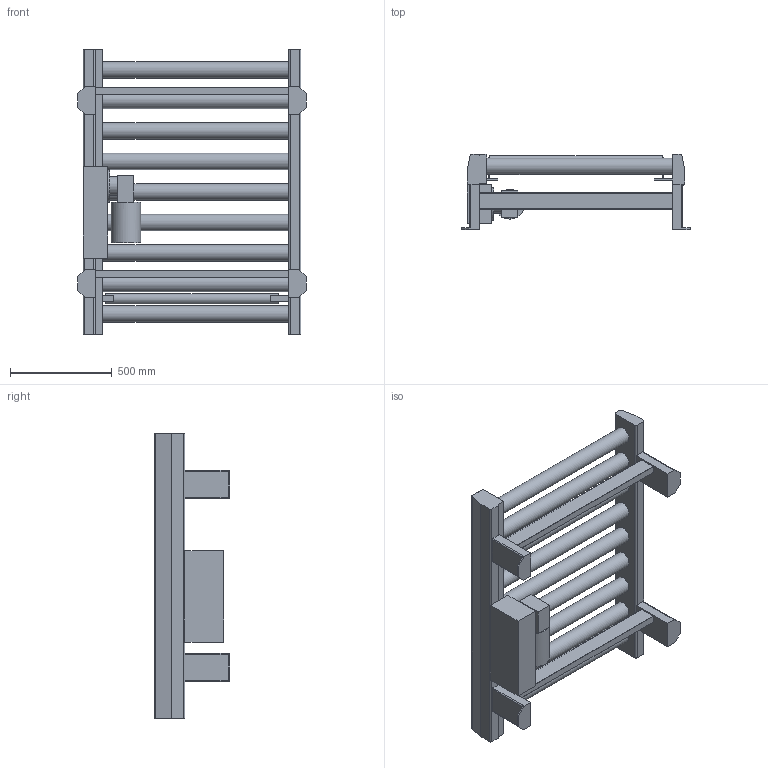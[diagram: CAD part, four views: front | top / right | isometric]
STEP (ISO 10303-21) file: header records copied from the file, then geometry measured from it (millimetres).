
FILE_DESCRIPTION((''),'2;1');
FILE_NAME('C:\Vault_Working_Folder\Designs\Inventor\Lättviktsmodeller\Maxi\IRKS 80-150-950-1400.stp','2012-11-13T08:43:21',('martin.samuelsson'),(''),'Autodesk Inventor 2013','Autodesk Inventor 2013','');
FILE_SCHEMA(('AUTOMOTIVE_DESIGN { 1 0 10303 214 1 1 1 1 }'));
Length unit declared in the file: millimetre
Products named in the file (1): IRKS 80-150-950-1400
Bounding box: 1122 x 370 x 1400 mm (x, y, z)
Volume: 96466284.8 mm3; surface area: 4897470.6 mm2
Topology: 5 solids, 5 shells, 152 faces, 385 edges, 252 vertices
Faces by surface type: plane 117, cylinder 35
Full cylindrical faces by diameter (mm): 50 x1, 80 x9, 90 x1, 145 x1, 160 x1
Entity records: 4612 total; most frequent: CARTESIAN_POINT 775, DIRECTION 756, ORIENTED_EDGE 742, EDGE_CURVE 371, VECTOR 292, LINE 292, VERTEX_POINT 251, AXIS2_PLACEMENT_3D 232
